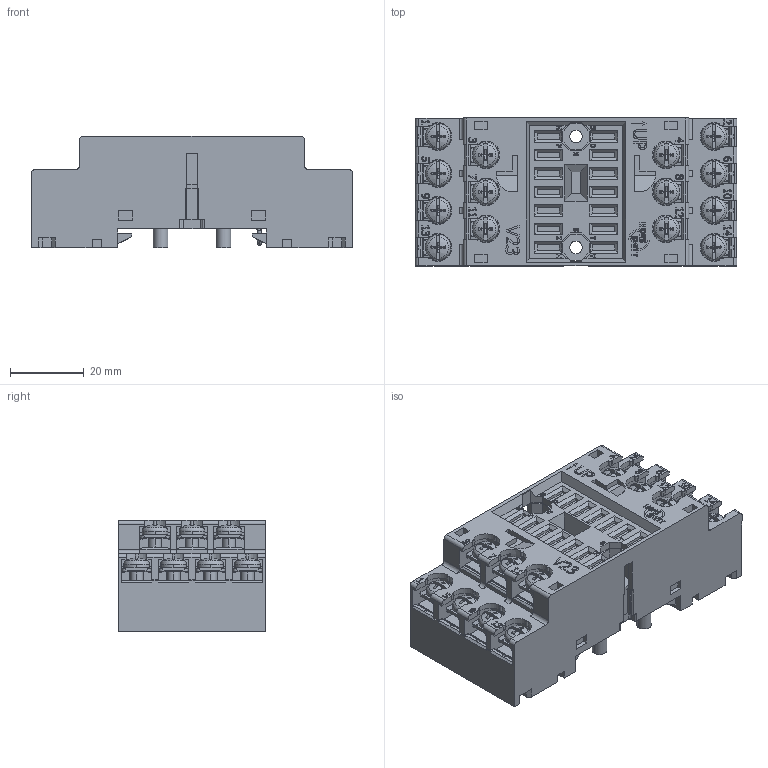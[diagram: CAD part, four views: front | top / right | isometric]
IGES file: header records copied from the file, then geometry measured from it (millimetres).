
Global section: file name: No Iges File Name specified; native system: Autodesk Inventor 2011; preprocessor: AutoDesk Inventor Iges Exporter R2011; author: a.vos; date: 20101026.091616; units: millimetre
Bounding box: 87 x 40 x 30.12 mm (x, y, z)
Volume: 74647.2 mm3; surface area: 25904.1 mm2
Topology: 1 solids, 1 shells, 3985 faces, 10813 edges, 6948 vertices
Faces by surface type: plane 2429, bspline 960, cylinder 229, revolution 157, cone 112, torus 70, sphere 28
